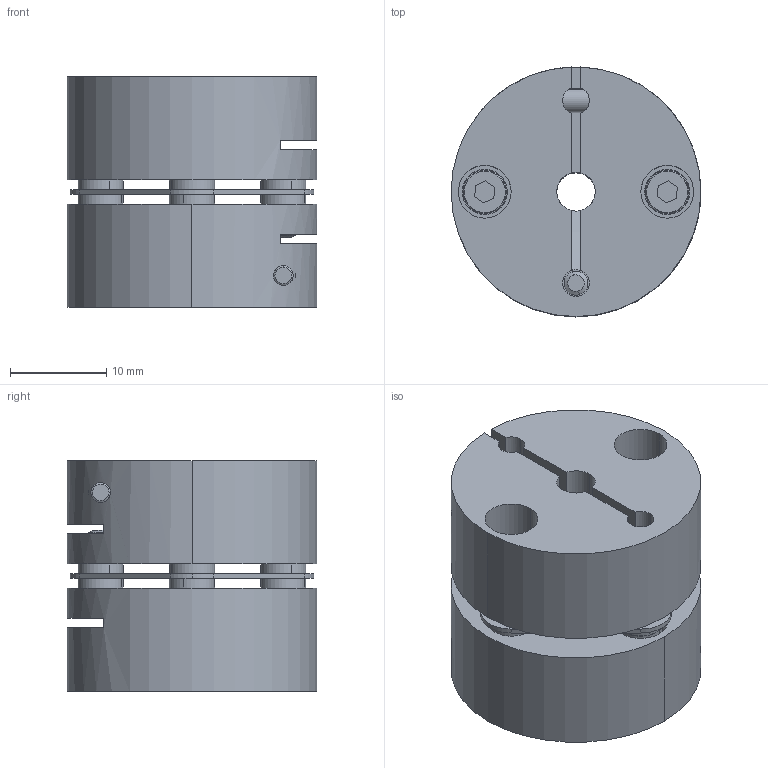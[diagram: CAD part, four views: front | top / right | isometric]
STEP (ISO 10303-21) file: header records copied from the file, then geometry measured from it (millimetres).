
FILE_DESCRIPTION (( 'STEP AP214' ), '1' );
FILE_NAME ('LC-A-020SA-4B-4B.STEP', '2019-09-12T07:14:58', ( 'admin' ), ( 'Microsoft' ), 'SwSTEP 2.0', 'SolidWorks 2016', '' );
FILE_SCHEMA (( 'AUTOMOTIVE_DESIGN' ));
Length unit declared in the file: millimetre
Products named in the file (1): LC-A-020SA-4B-4B
Bounding box: 26 x 26 x 24 mm (x, y, z)
Volume: 9625.6 mm3; surface area: 8022.6 mm2
Topology: 17 solids, 17 shells, 279 faces, 665 edges, 430 vertices
Faces by surface type: cylinder 131, plane 112, torus 24, cone 12
Entity records: 11852 total; most frequent: CARTESIAN_POINT 1751, DIRECTION 1523, ORIENTED_EDGE 1330, EDGE_CURVE 665, AXIS2_PLACEMENT_3D 602, VERTEX_POINT 430, EDGE_LOOP 347, CIRCLE 322
